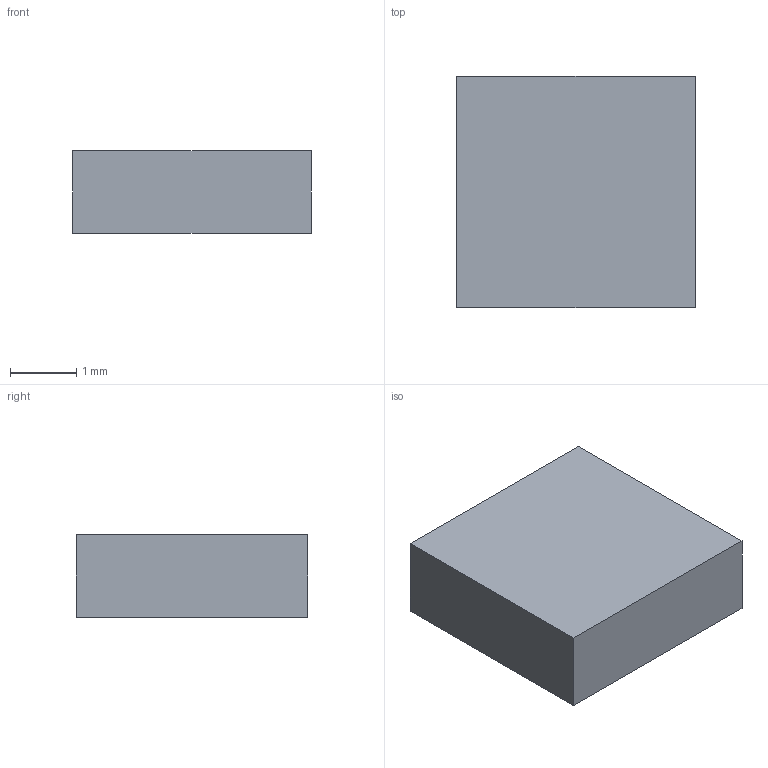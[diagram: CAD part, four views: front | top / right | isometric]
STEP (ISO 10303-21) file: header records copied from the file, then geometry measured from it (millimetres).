
FILE_DESCRIPTION(('Open CASCADE Model'),'2;1');
FILE_NAME('Open CASCADE Shape Model','2026-09-08T07:39:08',('Author'),( 'Open CASCADE'),'Open CASCADE STEP processor 7.9','Open CASCADE 7.9' ,'Unknown');
FILE_SCHEMA(('AUTOMOTIVE_DESIGN { 1 0 10303 214 1 1 1 1 }'));
Length unit declared in the file: millimetre
Products named in the file (1): COMPOUND
Bounding box: 3.6 x 3.5 x 1.25 mm (x, y, z)
Volume: 15.8 mm3; surface area: 42.9 mm2
Topology: 1 solids, 1 shells, 6 faces, 12 edges, 8 vertices
Faces by surface type: plane 6
Entity records: 338 total; most frequent: CARTESIAN_POINT 51, DIRECTION 50, LINE 36, VECTOR 36, ORIENTED_EDGE 24, PCURVE 24, DEFINITIONAL_REPRESENTATION 24, EDGE_CURVE 12
